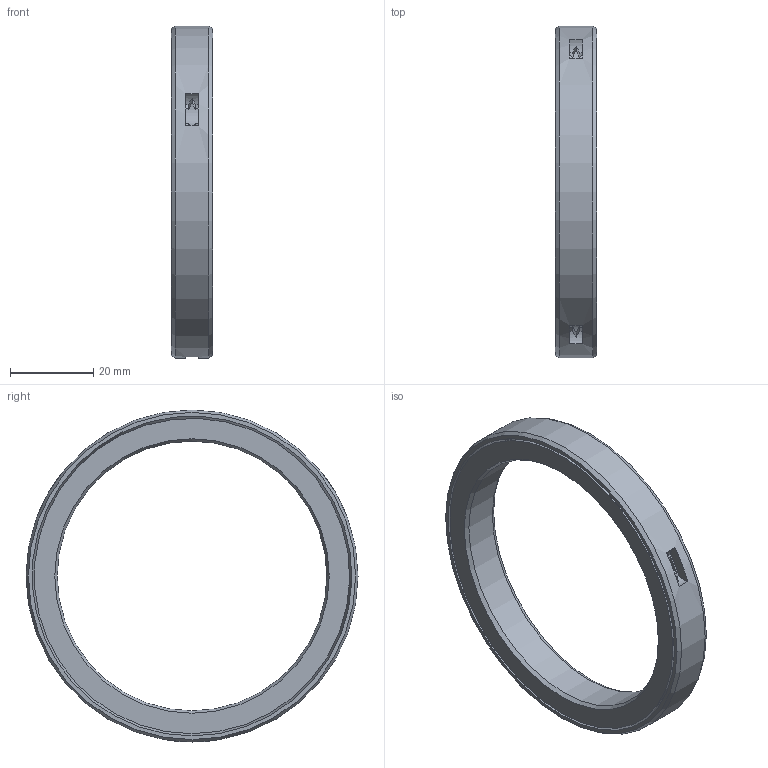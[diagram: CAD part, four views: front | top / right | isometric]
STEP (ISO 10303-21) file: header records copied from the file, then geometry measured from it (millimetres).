
FILE_DESCRIPTION(/* description */ (''),/* implementation_level */ '2;1');
FILE_NAME(/* name */ '301394 M 65x80x10.stp',/* time_stamp */ '2016-12-15T11:45:04+01:00',/* author */ (''),/* organization */ (''),/* preprocessor_version */ 'ST-DEVELOPER v15',/* originating_system */ 'SIEMENS PLM Software NX 8.5',/* authorisation */ '');
FILE_SCHEMA (('CONFIG_CONTROL_DESIGN'));
Length unit declared in the file: millimetre
Products named in the file (1): ATE0000124_01
Bounding box: 10 x 80 x 80 mm (x, y, z)
Volume: 15228.2 mm3; surface area: 12886.8 mm2
Topology: 2 solids, 2 shells, 49 faces, 143 edges, 94 vertices
Faces by surface type: cone 22, plane 16, cylinder 11
Full cylindrical faces by diameter (mm): 65 x1, 80 x1
Entity records: 1626 total; most frequent: CARTESIAN_POINT 396, ORIENTED_EDGE 240, DIRECTION 234, EDGE_CURVE 120, AXIS2_PLACEMENT_3D 114, VERTEX_POINT 84, CIRCLE 66, EDGE_LOOP 64
